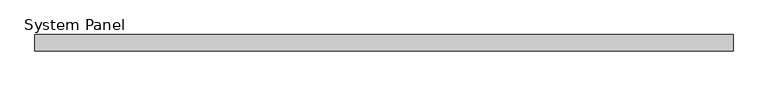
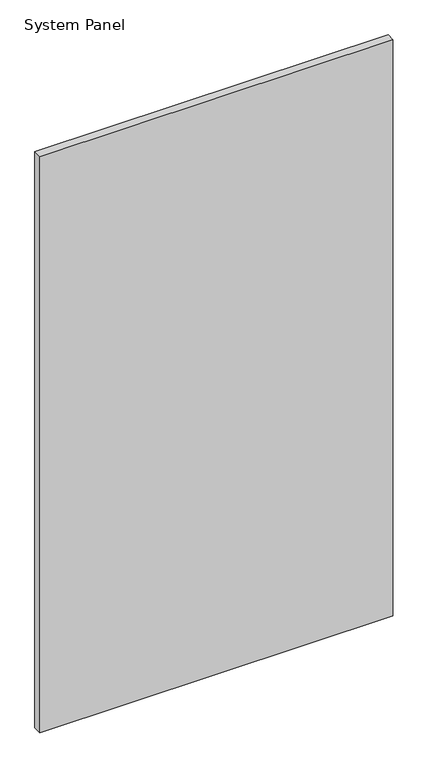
"""IFC4 building model written with IfcOpenShell, lengths in millimetres: plate geometry, System Panel : Panel_Glazed_Generic Showcase_30mm."""

from ifc_helpers import new_model, si_unit, origin, origin_with_axes, place, context, project, spatial, polyline, outline, extrude, source, transform, mapped, element, save


def system_panel_15604cb6(model_context):
    return source(origin(), model_context, "Body", "SweptSolid", [
        extrude(outline(polyline([(637.5, -30.0), (-637.5, -30.0), (-637.5, 0.0), (637.5, 0.0), (637.5, -30.0)])), origin_with_axes(), (0.0, 0.0, 1.0), 2200.0),
    ])


if __name__ == "__main__":
    model = new_model("IFC4")
    model_context = context("Model", 3, world=origin())
    ifc_project = project(units=[si_unit("LENGTHUNIT", "METRE", prefix="MILLI")], contexts=[model_context])
    site = spatial("IfcSite", under=ifc_project)
    building = spatial("IfcBuilding", under=site)
    placement = place(None, origin())
    system_panel_shape = system_panel_15604cb6(model_context)
    element("IfcPlate", 1, ObjectType="System Panel : Panel_Glazed_Generic Showcase_30mm", at=placement, inside=building, context=model_context, shape_type="MappedRepresentation", body=[
        mapped(system_panel_shape, transform((0.0, 0.0, 0.0), x_axis=(1.0, 0.0, 0.0), y_axis=(0.0, 1.0, 0.0), z_axis=(0.0, 0.0, 1.0))),
    ])
    save(model, "model.ifc")
